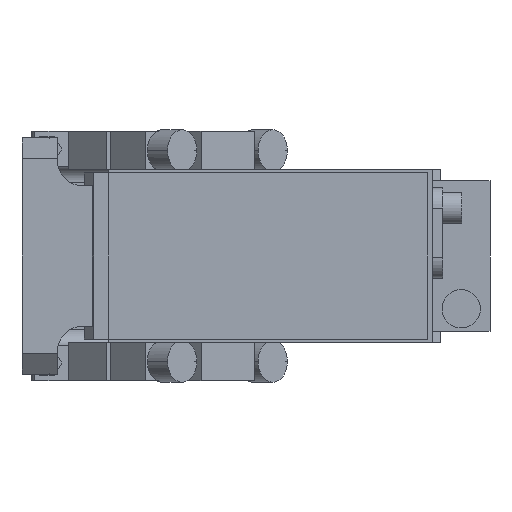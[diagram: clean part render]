
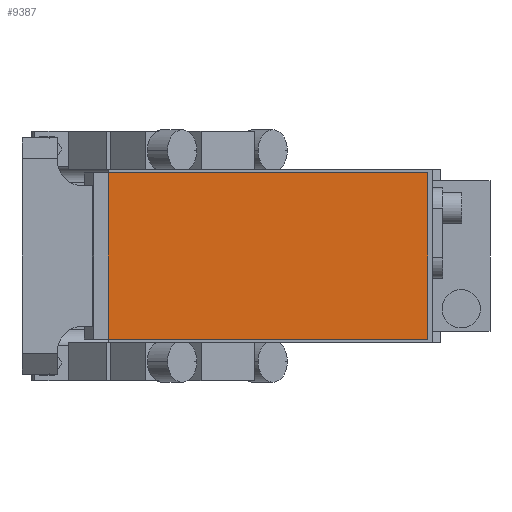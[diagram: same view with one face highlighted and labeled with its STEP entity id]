
A CAD part, front view. The second image highlights one B-rep face of the part: STEP entity #9387.
In plain terms, the highlighted planar face has unit normal (0, -1, 0).
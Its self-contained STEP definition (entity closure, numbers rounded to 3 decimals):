
#3 = ORIENTED_EDGE ( 'NONE', *, *, #1131, .T. ) ;
#1040 = ORIENTED_EDGE ( 'NONE', *, *, #1985, .T. ) ;
#1131 = EDGE_CURVE ( 'NONE', #14365, #9541, #4982, .T. ) ;
#1205 = VECTOR ( 'NONE', #3833, 1000. ) ;
#1985 = EDGE_CURVE ( 'NONE', #10326, #14365, #2553, .T. ) ;
#2553 = LINE ( 'NONE', #5768, #15009 ) ;
#2765 = EDGE_CURVE ( 'NONE', #9694, #10326, #6633, .T. ) ;
#2987 = VECTOR ( 'NONE', #9118, 1000. ) ;
#3615 = DIRECTION ( 'NONE',  ( 1., 0., 0. ) ) ;
#3833 = DIRECTION ( 'NONE',  ( 0., 0., -1. ) ) ;
#4491 = CARTESIAN_POINT ( 'NONE',  ( 81., -286.5, 26. ) ) ;
#4982 = LINE ( 'NONE', #9608, #1205 ) ;
#4987 = FACE_OUTER_BOUND ( 'NONE', #10363, .T. ) ;
#5768 = CARTESIAN_POINT ( 'NONE',  ( -19., -286.5, 26. ) ) ;
#6008 = CARTESIAN_POINT ( 'NONE',  ( -19., -286.5, 26. ) ) ;
#6633 = LINE ( 'NONE', #4491, #2987 ) ;
#8114 = DIRECTION ( 'NONE',  ( -1., 0., 0. ) ) ;
#8407 = DIRECTION ( 'NONE',  ( 0., -1., 0. ) ) ;
#9118 = DIRECTION ( 'NONE',  ( 0., 0., 1. ) ) ;
#9387 = ADVANCED_FACE ( 'NONE', ( #4987 ), #13287, .T. ) ;
#9541 = VERTEX_POINT ( 'NONE', #11526 ) ;
#9608 = CARTESIAN_POINT ( 'NONE',  ( -19., -286.5, 26. ) ) ;
#9694 = VERTEX_POINT ( 'NONE', #10896 ) ;
#9857 = VECTOR ( 'NONE', #3615, 1000. ) ;
#9984 = ORIENTED_EDGE ( 'NONE', *, *, #13634, .T. ) ;
#10326 = VERTEX_POINT ( 'NONE', #14180 ) ;
#10363 = EDGE_LOOP ( 'NONE', ( #3, #9984, #11058, #1040 ) ) ;
#10896 = CARTESIAN_POINT ( 'NONE',  ( 81., -286.5, -26. ) ) ;
#10981 = CARTESIAN_POINT ( 'NONE',  ( 0., -286.5, 0. ) ) ;
#11058 = ORIENTED_EDGE ( 'NONE', *, *, #2765, .T. ) ;
#11207 = AXIS2_PLACEMENT_3D ( 'NONE', #10981, #8407, #14190 ) ;
#11526 = CARTESIAN_POINT ( 'NONE',  ( -19., -286.5, -26. ) ) ;
#12986 = LINE ( 'NONE', #14194, #9857 ) ;
#13287 = PLANE ( 'NONE',  #11207 ) ;
#13634 = EDGE_CURVE ( 'NONE', #9541, #9694, #12986, .T. ) ;
#14180 = CARTESIAN_POINT ( 'NONE',  ( 81., -286.5, 26. ) ) ;
#14190 = DIRECTION ( 'NONE',  ( 0., 0., -1. ) ) ;
#14194 = CARTESIAN_POINT ( 'NONE',  ( -19., -286.5, -26. ) ) ;
#14365 = VERTEX_POINT ( 'NONE', #6008 ) ;
#15009 = VECTOR ( 'NONE', #8114, 1000. ) ;
